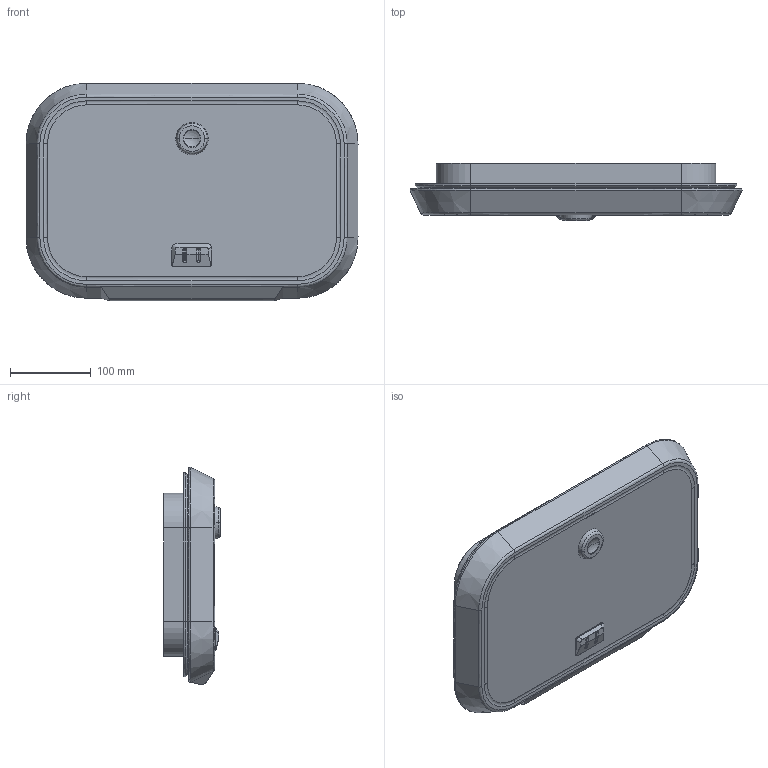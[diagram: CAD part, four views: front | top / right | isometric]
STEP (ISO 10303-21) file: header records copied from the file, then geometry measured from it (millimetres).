
FILE_DESCRIPTION((''),'2;1');
FILE_NAME('LEWMAR_HATCH_OCEAN_20_FLANGE_ASM','2008-02-21T',('skennedy'),(''),'PRO/ENGINEER BY PARAMETRIC TECHNOLOGY CORPORATION, 2007030','PRO/ENGINEER BY PARAMETRIC TECHNOLOGY CORPORATION, 2007030','');
FILE_SCHEMA(('CONFIG_CONTROL_DESIGN'));
Length unit declared in the file: millimetre
Products named in the file (5): OCEAN_ACRYLIC_20; OCEAN_SMALL_HANDLE; OCEAN_SMALL_HINGE_LEVER_1; FRAME_20_FLANGE; LEWMAR_HATCH_OCEAN_20_FLANGE_ASM
Assembly tree (4 placements, depth 2):
  LEWMAR_HATCH_OCEAN_20_FLANGE_ASM
    OCEAN_ACRYLIC_20
    OCEAN_SMALL_HANDLE
    OCEAN_SMALL_HINGE_LEVER_1
    FRAME_20_FLANGE
Bounding box: 410.98 x 70.5 x 269.06 mm (x, y, z)
Volume: 947259.4 mm3; surface area: 449888.9 mm2
Topology: 5 solids, 6 shells, 489 faces, 1160 edges, 707 vertices
Faces by surface type: plane 157, cylinder 141, bspline 127, cone 26, torus 20, sphere 16, extrusion 2
Entity records: 19043 total; most frequent: CARTESIAN_POINT 8133, ORIENTED_EDGE 2316, DIRECTION 2132, EDGE_CURVE 1158, AXIS2_PLACEMENT_3D 796, VERTEX_POINT 707, VECTOR 540, LINE 538
